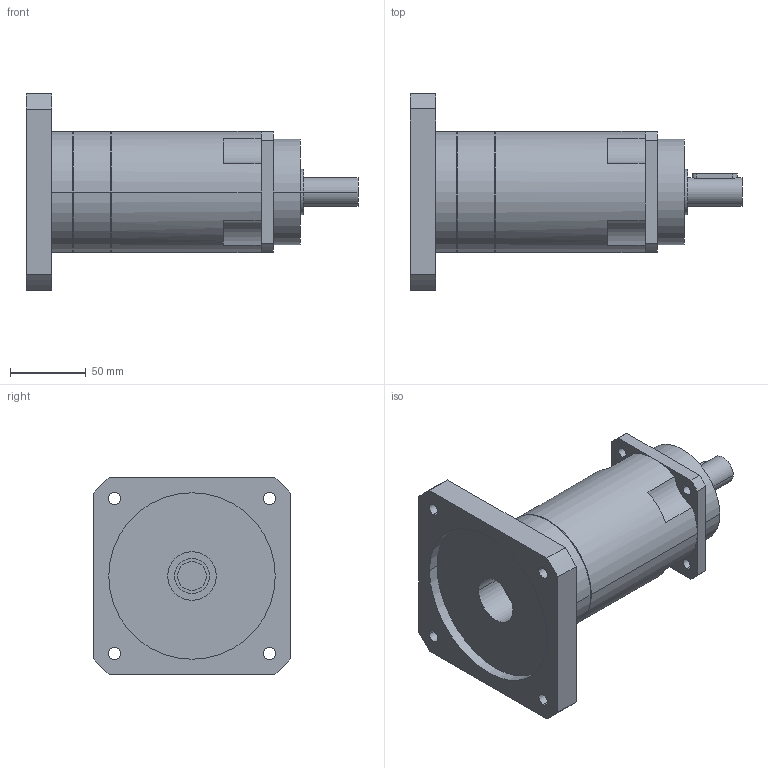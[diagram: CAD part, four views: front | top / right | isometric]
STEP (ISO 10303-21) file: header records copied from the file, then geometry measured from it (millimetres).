
FILE_DESCRIPTION(('CoCreate Modeling STEP Export'),'2;1');
FILE_NAME('GPR100_ig-48-64-80-100-120-144-180-216_19_B5_19_P18.stp','2014-08-26T11:56:58',(''),(''),'CoCreate Modeling STEP processor for AP214 (Solid Model)','CoCreate Modeling 16.00C 25-Feb-2009 (C) Parametric Technology GmbH','');
FILE_SCHEMA(('AUTOMOTIVE_DESIGN { 1 0 10303 214 1 1 1 1 }'));
Length unit declared in the file: millimetre
Products named in the file (2): GPR100_ig-48-64-80-100-120-144-180-216_19_B5_19_P18
Assembly tree (1 placements, depth 2):
  GPR100_ig-48-64-80-100-120-144-180-216_19_B5_19_P18
    GPR100_ig-48-64-80-100-120-144-180-216_19_B5_19_P18
Bounding box: 219.4 x 130 x 130 mm (x, y, z)
Volume: 1004727.7 mm3; surface area: 98459.8 mm2
Topology: 1 solids, 1 shells, 89 faces, 249 edges, 171 vertices
Faces by surface type: cylinder 52, plane 31, cone 6
Entity records: 2622 total; most frequent: ORIENTED_EDGE 494, CARTESIAN_POINT 476, DIRECTION 386, EDGE_CURVE 247, VERTEX_POINT 171, AXIS2_PLACEMENT_3D 145, EDGE_LOOP 116, VECTOR 96
